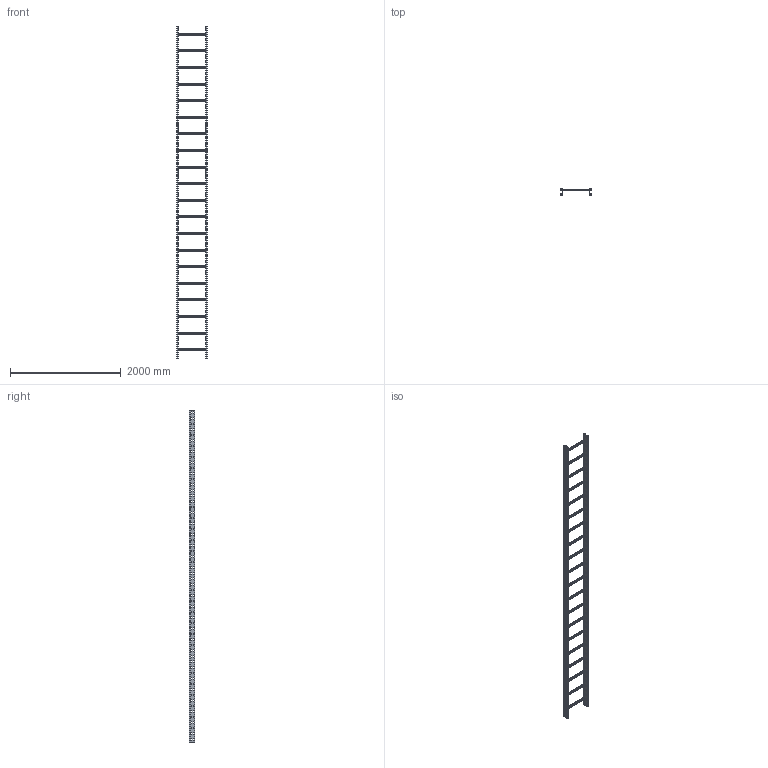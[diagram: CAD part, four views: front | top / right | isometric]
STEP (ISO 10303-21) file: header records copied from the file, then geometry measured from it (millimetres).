
FILE_DESCRIPTION(('Creo Elements/Direct Modeling STEP Export'),'2;1');
FILE_NAME('WP10-50.stp','2016-05-13T13:20:01',(''),(''),'PTC Creo Elements/Direct Modeling STEP processor for AP214 (Solid Model)','PTC Creo Elements/Direct Modeling 19.0C 15-Aug-2015 (C) Parametric Technology GmbH','');
FILE_SCHEMA(('AUTOMOTIVE_DESIGN { 1 0 10303 214 1 1 1 1 }'));
Length unit declared in the file: millimetre
Products named in the file (3): WPH_100B_S_; WPSP_05.8; WP10-50
Assembly tree (22 placements, depth 2):
  WP10-50
    WPSP_05.8  x20
    WPH_100B_S_  x2
Bounding box: 550 x 100 x 6000 mm (x, y, z)
Volume: 4263173.6 mm3; surface area: 5797749.8 mm2
Topology: 22 solids, 22 shells, 3596 faces, 10656 edges, 7104 vertices
Faces by surface type: plane 2288, cylinder 1308
Entity records: 23290 total; most frequent: ORIENTED_EDGE 4068, CARTESIAN_POINT 4049, DIRECTION 3583, EDGE_CURVE 2034, VECTOR 1803, LINE 1803, VERTEX_POINT 1356, EDGE_LOOP 1000
